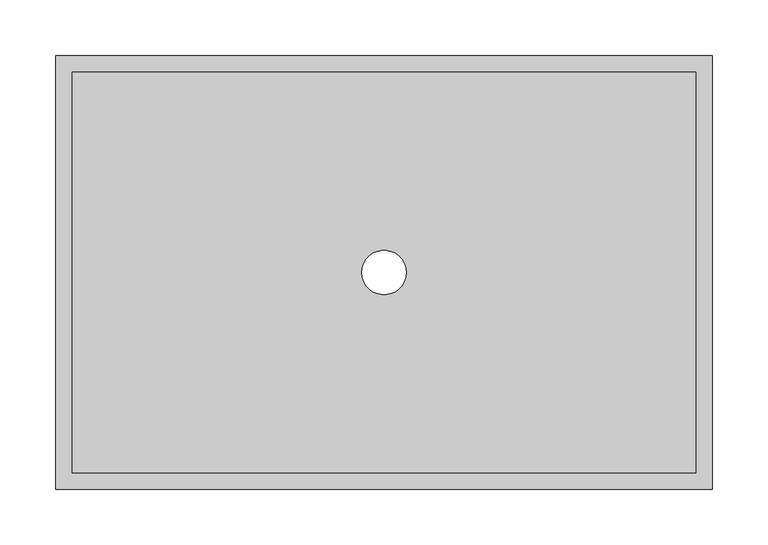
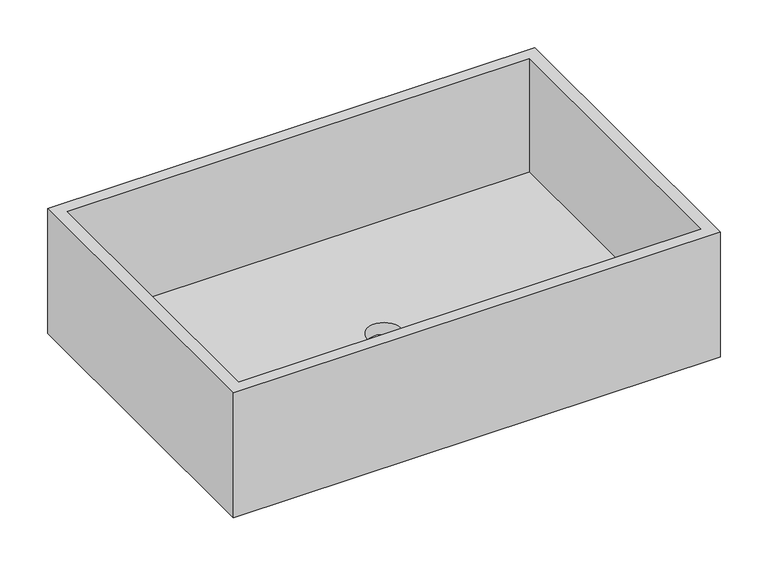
"""IFC4 building model written with IfcOpenShell, lengths in millimetres: flow terminal geometry, Lavabo Balak - Castel : Accesorios_baño."""

from ifc_helpers import new_model, si_unit, frame, origin, place, context, project, spatial, polyline, circle_curve, source, transform, mapped, element, save
from ifc_brep_helpers import plane_surface, revolved_surface, advanced_brep


def flow_terminal_0b9e953d(model_context):
    return source(origin(), model_context, "Body", "AdvancedBrep", [
        advanced_brep(
        [(280.0, 180.0, 765.0), (-280.0, 180.0, 765.0), (-280.0, -180.0, 765.0), (280.0, -180.0, 765.0), (-20.0, 0.0, 765.0), (20.0, 0.0, 765.0), (295.0, 195.0, 750.0), (295.0, -195.0, 750.0), (-295.0, -195.0, 750.0), (-295.0, 195.0, 750.0), (-20.0, 0.0, 750.0), (20.0, 0.0, 750.0), (-295.0, 195.0, 910.0), (295.0, 195.0, 910.0), (-295.0, -195.0, 910.0), (295.0, -195.0, 910.0), (-280.0, 180.0, 910.0), (280.0, 180.0, 910.0), (280.0, -180.0, 910.0), (-280.0, -180.0, 910.0)],
        [
            (0, 1),
            (1, 2),
            (2, 3),
            (3, 0),
            (4, 5, circle_curve(frame((0.0, 0.0, 765.0), z_axis=(0.0, 0.0, -1.0), x_axis=(1.0, 0.0, 0.0)), 20.0)),
            (5, 4, circle_curve(frame((0.0, 0.0, 765.0), z_axis=(0.0, 0.0, -1.0), x_axis=(1.0, 0.0, 0.0)), 20.0)),
            (6, 7),
            (7, 8),
            (8, 9),
            (9, 6),
            (10, 11, circle_curve(frame((0.0, 0.0, 750.0), z_axis=(0.0, 0.0, 1.0), x_axis=(1.0, 0.0, 0.0)), 20.0)),
            (11, 10, circle_curve(frame((0.0, 0.0, 750.0), z_axis=(0.0, 0.0, 1.0), x_axis=(1.0, 0.0, 0.0)), 20.0)),
            (9, 12),
            (12, 13),
            (13, 6),
            (8, 14),
            (14, 12),
            (7, 15),
            (15, 14),
            (13, 15),
            (4, 10),
            (11, 5),
            (16, 17),
            (17, 18),
            (18, 19),
            (19, 16),
            (16, 1),
            (0, 17),
            (3, 18),
            (2, 19),
        ],
        [
            plane_surface(frame((-295.0, 195.0, 765.0), z_axis=(0.0, 0.0, 1.0), x_axis=(-1.0, 0.0, 0.0))),
            plane_surface(frame((-295.0, 195.0, 750.0), z_axis=(0.0, 0.0, -1.0), x_axis=(1.0, 0.0, 0.0))),
            plane_surface(frame((295.0, 195.0, 765.0), z_axis=(0.0, 1.0, 0.0), x_axis=(0.0, 0.0, -1.0))),
            plane_surface(frame((-295.0, 195.0, 765.0), z_axis=(-1.0, 0.0, 0.0), x_axis=(0.0, 0.0, -1.0))),
            plane_surface(frame((-295.0, -195.0, 765.0), z_axis=(0.0, -1.0, 0.0), x_axis=(0.0, 0.0, -1.0))),
            plane_surface(frame((295.0, -195.0, 765.0), z_axis=(1.0, 0.0, 0.0), x_axis=(0.0, 0.0, -1.0))),
            revolved_surface(polyline([(20.0, 0.0, 750.0), (20.0, 0.0, 765.0)]), (0.0, 0.0, 0.0), (0.0, 0.0, -1.0)),
            plane_surface(frame((-295.0, 1296.250436, 910.0), z_axis=(0.0, 0.0, 1.0), x_axis=(0.0, -1.0, 0.0))),
            plane_surface(frame((-280.0, 180.0, 910.0), z_axis=(0.0, -1.0, 0.0), x_axis=(0.0, 0.0, -1.0))),
            plane_surface(frame((280.0, 180.0, 910.0), z_axis=(-1.0, 0.0, 0.0), x_axis=(0.0, 0.0, -1.0))),
            plane_surface(frame((280.0, -180.0, 910.0), z_axis=(0.0, 1.0, 0.0), x_axis=(0.0, 0.0, -1.0))),
            plane_surface(frame((-280.0, -180.0, 910.0), z_axis=(1.0, 0.0, 0.0), x_axis=(0.0, 0.0, -1.0))),
        ],
        [
            (0, [[1, 2, 3, 4], [5, 6]]),
            (1, [[7, 8, 9, 10], [11, 12]]),
            (2, [[-10, 13, 14, 15]]),
            (3, [[-13, -9, 16, 17]]),
            (4, [[-16, -8, 18, 19]]),
            (5, [[-18, -7, -15, 20]]),
            (6, [[-5, 21, -12, 22]]),
            (6, [[-6, -22, -11, -21]]),
            (7, [[-17, -19, -20, -14], [23, 24, 25, 26]]),
            (8, [[-23, 27, -1, 28]]),
            (9, [[-24, -28, -4, 29]]),
            (10, [[-25, -29, -3, 30]]),
            (11, [[-26, -30, -2, -27]]),
        ],
    ),
    ])


if __name__ == "__main__":
    model = new_model("IFC4")
    model_context = context("Model", 3, world=origin())
    ifc_project = project(units=[si_unit("LENGTHUNIT", "METRE", prefix="MILLI")], contexts=[model_context])
    site = spatial("IfcSite", under=ifc_project)
    building = spatial("IfcBuilding", under=site)
    placement = place(None, origin())
    flow_terminal_shape = flow_terminal_0b9e953d(model_context)
    element("IfcFlowTerminal", 1, ObjectType="Lavabo Balak - Castel : Accesorios_baño", at=placement, inside=building, context=model_context, shape_type="MappedRepresentation", body=[
        mapped(flow_terminal_shape, transform((0.0, 0.0, 0.0), x_axis=(1.0, 0.0, 0.0), y_axis=(0.0, 1.0, 0.0), z_axis=(0.0, 0.0, 1.0))),
    ])
    save(model, "model.ifc")
